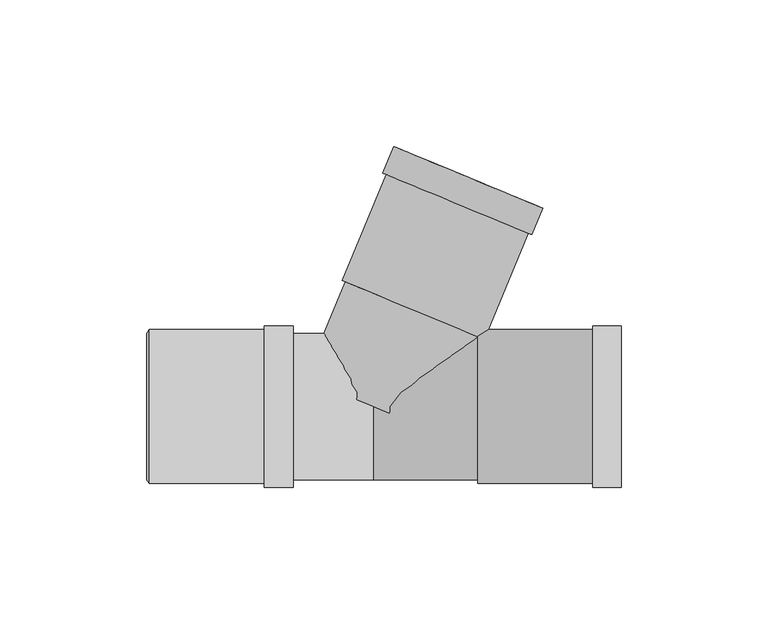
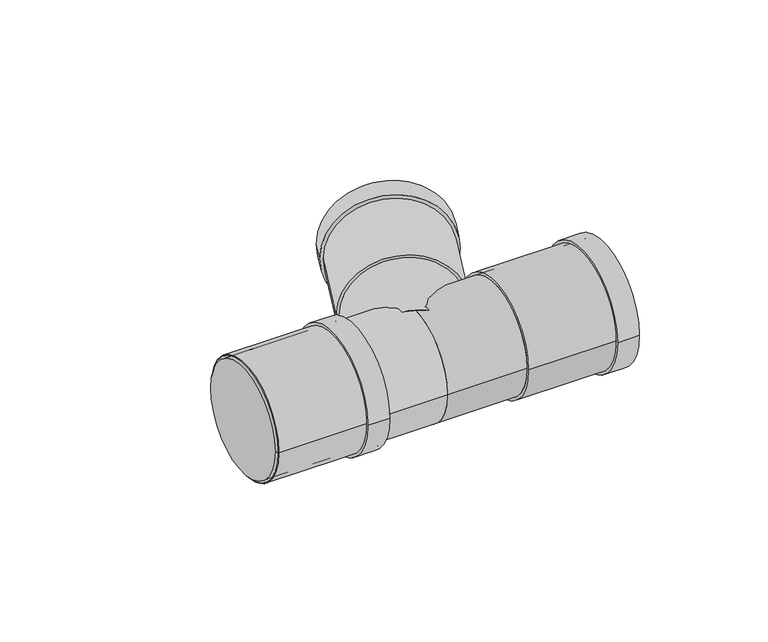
"""IFC4 building model written with IfcOpenShell, lengths in millimetres: pipe fitting geometry, Superdrain HTEA Branch : Superdrain HTEA Branch."""

import ifcopenshell
import ifcopenshell.guid

model = None  # the IFC model being written
_history = None  # IfcOwnerHistory: only IFC2X3 demands one
_inside = {}  # id of a spatial element -> (the spatial element, [elements in it])
_under = {}  # id of a project, library or spatial element -> (it, [spatial elements below it])
_declared = {}  # id of a project -> (the project, [libraries it declares])
_typed = {}  # id of a type object -> (the type object, [elements of that type])
_made_of = {}  # id of a material, layer set ... -> (it, [elements and type objects made of it])


def new_model(schema):
    """Start an empty IFC model of exactly this schema.

    Asked for "IFC4X3", IfcOpenShell would pick the latest addendum, in which some entities
    have other attributes; the version numbers below select the first issue.
    IFC2X3 requires an IfcOwnerHistory on every rooted entity: one is made here for all.
    """
    global model, _history
    if schema == "IFC4X3":
        model = ifcopenshell.file(schema_version=(4, 3, 0, 0))
    else:
        model = ifcopenshell.file(schema=schema)
    _inside.clear()
    _under.clear()
    _declared.clear()
    _typed.clear()
    _made_of.clear()
    _history = None
    if model.schema == "IFC2X3":
        org = make("IfcOrganization", Name="unknown")
        user = make(
            "IfcPersonAndOrganization",
            ThePerson=make("IfcPerson", FamilyName="unknown"),
            TheOrganization=org,
        )
        app = make(
            "IfcApplication",
            ApplicationDeveloper=org,
            Version="unknown",
            ApplicationFullName="unknown",
            ApplicationIdentifier="unknown",
        )
        _history = make(
            "IfcOwnerHistory",
            OwningUser=user,
            OwningApplication=app,
            ChangeAction="ADDED",
            CreationDate=0,
        )
    return model


def make(cls, **values):
    """One entity of the class cls with the attributes given. An attribute that is None is left unset."""
    return model.create_entity(
        cls, **{name: value for name, value in values.items() if value is not None}
    )


def rooted(cls, **values):
    """An entity with a GlobalId (a new one), such as an element, a storey or a relation."""
    return make(cls, GlobalId=ifcopenshell.guid.new(), OwnerHistory=_history, **values)


def si_unit(unit_type, name, prefix=None):
    """IfcSIUnit, for example si_unit("LENGTHUNIT", "METRE", prefix="MILLI")."""
    return make("IfcSIUnit", UnitType=unit_type, Prefix=prefix, Name=name)


def assignment(units):
    """IfcUnitAssignment: the units of a project."""
    return None if units is None else make("IfcUnitAssignment", Units=units)


def point(xyz):
    """IfcCartesianPoint."""
    return None if xyz is None else make("IfcCartesianPoint", Coordinates=xyz)


def direction(xyz):
    """IfcDirection."""
    return None if xyz is None else make("IfcDirection", DirectionRatios=xyz)


def frame(location, z_axis=None, x_axis=None):
    """IfcAxis2Placement3D, a coordinate frame: its origin and axes. An axis left out is left unset."""
    return make(
        "IfcAxis2Placement3D",
        Location=point(location),
        Axis=direction(z_axis),
        RefDirection=direction(x_axis),
    )


def frame_2d(location, x_axis=None):
    """IfcAxis2Placement2D, a coordinate frame in the plane: its origin and x axis."""
    return make(
        "IfcAxis2Placement2D", Location=point(location), RefDirection=direction(x_axis)
    )


def origin():
    """The frame at (0, 0, 0) with its axes left unset."""
    return frame((0.0, 0.0, 0.0))


def origin_2d():
    """The frame at (0, 0) in the plane with its x axis left unset."""
    return frame_2d((0.0, 0.0))


def place(relative_to, where):
    """IfcLocalPlacement: puts the frame where relative to a parent placement (None: the world)."""
    return make(
        "IfcLocalPlacement", PlacementRelTo=relative_to, RelativePlacement=where
    )


def context(
    kind, dimensions, precision=None, world=None, true_north=None, identifier=None
):
    """IfcGeometricRepresentationContext, for example the 3D "Model" context."""
    return make(
        "IfcGeometricRepresentationContext",
        ContextIdentifier=identifier,
        ContextType=kind,
        CoordinateSpaceDimension=dimensions,
        Precision=precision,
        WorldCoordinateSystem=world,
        TrueNorth=true_north,
    )


def project(units=None, contexts=None):
    """IfcProject with its units and contexts."""
    return rooted(
        "IfcProject",
        Name="project",
        RepresentationContexts=contexts,
        UnitsInContext=assignment(units),
    )


def spatial(cls, under=None, at=None, **own):
    """A site, building, storey or space (cls), placed at a placement, below another one or the project."""
    s = rooted(cls, ObjectPlacement=at, **own)
    if under is not None:
        _under.setdefault(under.id(), (under, []))[1].append(s)
    return s


def polyline(points):
    """IfcPolyline through the points."""
    return make("IfcPolyline", Points=[point(p) for p in points])


def circle_curve(where, radius):
    """IfcCircle in the frame where."""
    return make("IfcCircle", Position=where, Radius=radius)


def trimmed(basis, trim1, trim2, sense, master):
    """IfcTrimmedCurve: the piece of a basis curve between two trims."""
    return make(
        "IfcTrimmedCurve",
        BasisCurve=basis,
        Trim1=trim1,
        Trim2=trim2,
        SenseAgreement=sense,
        MasterRepresentation=master,
    )


def segment(curve, same_sense, transition):
    """IfcCompositeCurveSegment."""
    return make(
        "IfcCompositeCurveSegment",
        Transition=transition,
        SameSense=same_sense,
        ParentCurve=curve,
    )


def composite_curve(segments, self_intersect=None):
    """IfcCompositeCurve: segments joined end to end."""
    return make("IfcCompositeCurve", Segments=segments, SelfIntersect=self_intersect)


def outline(outer, holes=None, kind="AREA"):
    """IfcArbitraryClosedProfileDef: a profile drawn as a closed curve; with holes, ...WithVoids."""
    if holes is None:
        return make("IfcArbitraryClosedProfileDef", ProfileType=kind, OuterCurve=outer)
    return make(
        "IfcArbitraryProfileDefWithVoids",
        ProfileType=kind,
        OuterCurve=outer,
        InnerCurves=holes,
    )


def extrude(swept, where, along, depth):
    """IfcExtrudedAreaSolid: the profile swept, set in the frame where, extruded along a direction by depth."""
    return make(
        "IfcExtrudedAreaSolid",
        SweptArea=swept,
        Position=where,
        ExtrudedDirection=direction(along),
        Depth=depth,
    )


def shape(context_of_items, identifier, shape_type, items):
    """IfcShapeRepresentation: the items that make up one representation, for example the "Body"."""
    return make(
        "IfcShapeRepresentation",
        ContextOfItems=context_of_items,
        RepresentationIdentifier=identifier,
        RepresentationType=shape_type,
        Items=items,
    )


def source(mapping_origin, context_of_items, identifier, shape_type, items):
    """IfcRepresentationMap: a shape defined once, which mapped items show again and again."""
    return make(
        "IfcRepresentationMap",
        MappingOrigin=mapping_origin,
        MappedRepresentation=shape(context_of_items, identifier, shape_type, items),
    )


def transform(
    local_origin,
    x_axis=None,
    y_axis=None,
    z_axis=None,
    scale=None,
    scale2=None,
    scale3=None,
    uniform=True,
):
    """IfcCartesianTransformationOperator3D, or its non-uniform kind. x_axis, y_axis, z_axis: its Axis1, 2, 3."""
    if uniform:
        return make(
            "IfcCartesianTransformationOperator3D",
            Axis1=direction(x_axis),
            Axis2=direction(y_axis),
            LocalOrigin=point(local_origin),
            Scale=scale,
            Axis3=direction(z_axis),
        )
    return make(
        "IfcCartesianTransformationOperator3DnonUniform",
        Axis1=direction(x_axis),
        Axis2=direction(y_axis),
        LocalOrigin=point(local_origin),
        Scale=scale,
        Axis3=direction(z_axis),
        Scale2=scale2,
        Scale3=scale3,
    )


def mapped(mapping_source, mapping_target):
    """IfcMappedItem: shows the shape of a source again, moved by a transform."""
    return make(
        "IfcMappedItem", MappingSource=mapping_source, MappingTarget=mapping_target
    )


def made_of(thing, what):
    """Note that an element or type object is made of a material, layer set ...; save() writes the relation."""
    if what is not None:
        _made_of.setdefault(what.id(), (what, []))[1].append(thing)
    return thing


def element(
    cls,
    number,
    at=None,
    inside=None,
    cuts=None,
    type_object=None,
    material=None,
    context=None,
    identifier="Body",
    shape_type=None,
    held_by="IfcProductDefinitionShape",
    body=None,
    shapes=None,
    **own,
):
    """One element of the class cls, such as IfcWall. Its Tag is "e" and its number.

    at: its placement. inside: the storey or other place that contains it. cuts: it is an
    opening in that element (IfcRelVoidsElement). A single representation is given by context,
    identifier, shape_type and body (its items); several are given by shapes. held_by: the class
    of the entity that holds the representations. save() writes the other relations.
    """
    e = rooted(cls, Tag="e%d" % number, ObjectPlacement=at, **own)
    if body is not None:
        shapes = [shape(context, identifier, shape_type, body)]
    if shapes is not None:
        e.Representation = make(held_by, Representations=shapes)
    if inside is not None:
        _inside.setdefault(inside.id(), (inside, []))[1].append(e)
    if cuts is not None:
        rooted(
            "IfcRelVoidsElement", RelatingBuildingElement=cuts, RelatedOpeningElement=e
        )
    if type_object is not None:
        _typed.setdefault(type_object.id(), (type_object, []))[1].append(e)
    return made_of(e, material)


def aggregate(whole, parts):
    """IfcRelAggregates: a whole, such as a stair, and the parts it consists of."""
    return rooted("IfcRelAggregates", RelatingObject=whole, RelatedObjects=parts)


def save(model, path):
    """Write the relations noted so far, then the file.

    IfcRelAggregates (storeys below a building ...), IfcRelContainedInSpatialStructure (elements
    in a storey), IfcRelDefinesByType, IfcRelAssociatesMaterial and IfcRelDeclares: one each for
    every whole, place, type object, material and project.
    """
    for whole, parts in _under.values():
        aggregate(whole, parts)
    for where, things in _inside.values():
        rooted(
            "IfcRelContainedInSpatialStructure",
            RelatedElements=things,
            RelatingStructure=where,
        )
    for kind, things in _typed.values():
        rooted("IfcRelDefinesByType", RelatedObjects=things, RelatingType=kind)
    for what, things in _made_of.values():
        rooted("IfcRelAssociatesMaterial", RelatedObjects=things, RelatingMaterial=what)
    for by, libraries in _declared.values():
        rooted("IfcRelDeclares", RelatingContext=by, RelatedDefinitions=libraries)
    model.write(path)


def plane_surface(at):
    """IfcPlane: the flat surface through the origin of the frame at, square to its z axis."""
    return make("IfcPlane", Position=at)


def revolved_surface(curve, axis_point, axis_direction):
    """IfcSurfaceOfRevolution: the curve turned about the line through axis_point along axis_direction."""
    return make(
        "IfcSurfaceOfRevolution",
        SweptCurve=make("IfcArbitraryOpenProfileDef", ProfileType="CURVE", Curve=curve),
        AxisPosition=make("IfcAxis1Placement", Location=point(axis_point), Axis=direction(axis_direction)),
    )


def advanced_brep(points, edges, surfaces, faces):
    """IfcAdvancedBrep: a solid bounded by faces that lie on surfaces and meet in shared edges.

    An edge is (start, end): straight between two places in points (the first is 0);
    or (start, end, curve); or (start, end, curve, False) where it runs against its curve.
    A face is (place in surfaces, loops), or (place, loops, False) where it looks against
    its surface's normal. A loop lists edges by number (the first is 1), with a minus sign
    where the edge is run from its end to its start. The first loop is the outer one.
    """
    corners = [point(p) for p in points]
    vertices = [make("IfcVertexPoint", VertexGeometry=c) for c in corners]
    made = []
    for start, end, *more in edges:
        made.append(
            make(
                "IfcEdgeCurve",
                EdgeStart=vertices[start],
                EdgeEnd=vertices[end],
                EdgeGeometry=more[0] if more else make("IfcPolyline", Points=[corners[start], corners[end]]),
                SameSense=more[1] if len(more) > 1 else True,
            )
        )
    hull = []
    for where, loops, *sense in faces:
        bounds = []
        for j, loop in enumerate(loops):
            ring = [make("IfcOrientedEdge", EdgeElement=made[abs(k) - 1], Orientation=k > 0) for k in loop]
            bounds.append(
                make(
                    "IfcFaceOuterBound" if j == 0 else "IfcFaceBound",
                    Bound=make("IfcEdgeLoop", EdgeList=ring),
                    Orientation=True,
                )
            )
        hull.append(make("IfcAdvancedFace", Bounds=bounds, FaceSurface=surfaces[where], SameSense=sense[0] if sense else True))
    return make("IfcAdvancedBrep", Outer=make("IfcClosedShell", CfsFaces=hull))


def pipe_fitting_c48c9deb(model_context):
    return source(origin(), model_context, "Body", "SolidModel", [
        extrude(outline(composite_curve([segment(trimmed(circle_curve(origin_2d(), 26.25), [point((26.25, 0.0))], [point((-26.25, 0.0))], False, "CARTESIAN"), True, "CONTINUOUS"), segment(trimmed(circle_curve(origin_2d(), 26.25), [point((-26.25, 0.0))], [point((26.25, 0.0))], False, "CARTESIAN"), True, "CONTINUOUS")], self_intersect=False), holes=[composite_curve([segment(trimmed(circle_curve(origin_2d(), 25.0), [point((25.0, 0.0))], [point((-25.0, 0.0))], True, "CARTESIAN"), True, "CONTINUOUS"), segment(trimmed(circle_curve(origin_2d(), 25.0), [point((-25.0, 0.0))], [point((25.0, 0.0))], True, "CARTESIAN"), True, "CONTINUOUS")], self_intersect=False)]), frame((-76.3, 0.0, 0.0), z_axis=(1.0, 0.0, 0.0), x_axis=(0.0, 1.0, 0.0)), (0.0, 0.0, 1.0), 49.0),
        extrude(outline(composite_curve([segment(trimmed(circle_curve(origin_2d(), 27.5625), [point((27.5625, 0.0))], [point((-27.5625, 0.0))], False, "CARTESIAN"), True, "CONTINUOUS"), segment(trimmed(circle_curve(origin_2d(), 27.5625), [point((-27.5625, 0.0))], [point((27.5625, 0.0))], False, "CARTESIAN"), True, "CONTINUOUS")], self_intersect=False), holes=[composite_curve([segment(trimmed(circle_curve(origin_2d(), 25.0), [point((25.0, 0.0))], [point((-25.0, 0.0))], True, "CARTESIAN"), True, "CONTINUOUS"), segment(trimmed(circle_curve(origin_2d(), 25.0), [point((-25.0, 0.0))], [point((25.0, 0.0))], True, "CARTESIAN"), True, "CONTINUOUS")], self_intersect=False)]), frame((-37.1, 0.0, 0.0), z_axis=(1.0, 0.0, 0.0), x_axis=(0.0, 1.0, 0.0)), (0.0, 0.0, 1.0), 9.8),
        advanced_brep(
        [(-77.3, 25.0, 0.0), (-77.3, -25.0, 0.0), (-76.3, 26.25, 0.0), (-76.3, -26.25, 0.0)],
        [
            (0, 1, circle_curve(frame((-77.3, 0.0, 0.0), z_axis=(-1.0, 0.0, 0.0), x_axis=(0.0, 1.0000000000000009, 0.0)), 25.0)),
            (1, 0, circle_curve(frame((-77.3, 0.0, 0.0), z_axis=(-1.0, 0.0, 0.0), x_axis=(0.0, -1.0000000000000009, 0.0)), 25.0)),
            (2, 3, circle_curve(frame((-76.3, 0.0, 0.0), z_axis=(1.0, 0.0, 0.0), x_axis=(0.0, -1.0000000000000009, 0.0)), 26.25)),
            (3, 2, circle_curve(frame((-76.3, 0.0, 0.0), z_axis=(1.0, 0.0, 0.0), x_axis=(0.0, 1.0000000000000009, 0.0)), 26.25)),
            (3, 1),
            (0, 2),
        ],
        [
            plane_surface(frame((-77.3, 0.0, 0.0), z_axis=(-1.0, 0.0, 0.0), x_axis=(0.0, 0.0, -1.0))),
            plane_surface(frame((-76.3, 0.0, 0.0), z_axis=(1.0, 0.0, 0.0), x_axis=(0.0, 0.0, -1.0))),
            revolved_surface(polyline([(-77.3, 24.999999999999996, 0.0), (-76.3, 26.25, 0.0)]), (-97.3, 0.0, 0.0), (1.0000000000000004, 0.0, 0.0)),
            revolved_surface(polyline([(-77.3, -24.999999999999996, 0.0), (-76.3, -26.25, 0.0)]), (-97.3, 0.0, 0.0), (1.0000000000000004, 0.0, 0.0)),
        ],
        [
            (0, [[1, 2]]),
            (1, [[3, 4]]),
            (2, [[-4, 5, -1, 6]]),
            (3, [[-3, -6, -2, -5]]),
        ],
    ),
        extrude(outline(composite_curve([segment(trimmed(circle_curve(origin_2d(), 26.25), [point((-26.25, 0.0))], [point((26.25, 0.0))], False, "CARTESIAN"), True, "CONTINUOUS"), segment(trimmed(circle_curve(origin_2d(), 26.25), [point((26.25, 0.0))], [point((-26.25, 0.0))], False, "CARTESIAN"), True, "CONTINUOUS")], self_intersect=False), holes=[composite_curve([segment(trimmed(circle_curve(origin_2d(), 25.0), [point((25.0, 0.0))], [point((-25.0, 0.0))], True, "CARTESIAN"), True, "CONTINUOUS"), segment(trimmed(circle_curve(origin_2d(), 25.0), [point((-25.0, 0.0))], [point((25.0, 0.0))], True, "CARTESIAN"), True, "CONTINUOUS")], self_intersect=False)]), frame((35.7, 0.0, 0.0), z_axis=(1.0, 0.0, 0.0), x_axis=(0.0, 1.0, 0.0)), (0.0, 0.0, 1.0), 49.0),
        extrude(outline(composite_curve([segment(trimmed(circle_curve(origin_2d(), 27.5625), [point((27.5625, 0.0))], [point((-27.5625, 0.0))], False, "CARTESIAN"), True, "CONTINUOUS"), segment(trimmed(circle_curve(origin_2d(), 27.5625), [point((-27.5625, 0.0))], [point((27.5625, 0.0))], False, "CARTESIAN"), True, "CONTINUOUS")], self_intersect=False), holes=[composite_curve([segment(trimmed(circle_curve(origin_2d(), 25.0), [point((25.0, 0.0))], [point((-25.0, 0.0))], True, "CARTESIAN"), True, "CONTINUOUS"), segment(trimmed(circle_curve(origin_2d(), 25.0), [point((-25.0, 0.0))], [point((25.0, 0.0))], True, "CARTESIAN"), True, "CONTINUOUS")], self_intersect=False)]), frame((74.9, 0.0, 0.0), z_axis=(1.0, 0.0, 0.0), x_axis=(0.0, 1.0, 0.0)), (0.0, 0.0, 1.0), 9.8),
        extrude(outline(composite_curve([segment(trimmed(circle_curve(origin_2d(), 25.0), [point((0.0, 25.0))], [point((0.0, -25.0))], False, "CARTESIAN"), True, "CONTINUOUS"), segment(trimmed(circle_curve(origin_2d(), 25.0), [point((0.0, -25.0))], [point((0.0, 25.0))], False, "CARTESIAN"), True, "CONTINUOUS")], self_intersect=False)), frame((0.0, 0.0, 0.0), z_axis=(0.3826834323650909, 0.9238795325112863, 0.0), x_axis=(0.0, 0.0, 1.0)), (0.0, 0.0, 1.0), 35.7),
        extrude(outline(composite_curve([segment(trimmed(circle_curve(origin_2d(), 25.0), [point((25.0, 0.0))], [point((-25.0, 0.0))], False, "CARTESIAN"), True, "CONTINUOUS"), segment(trimmed(circle_curve(origin_2d(), 25.0), [point((-25.0, 0.0))], [point((25.0, 0.0))], False, "CARTESIAN"), True, "CONTINUOUS")], self_intersect=False)), frame((-76.3, 0.0, 0.0), z_axis=(1.0, 0.0, 0.0), x_axis=(0.0, 1.0, 0.0)), (0.0, 0.0, 1.0), 76.3),
        extrude(outline(composite_curve([segment(trimmed(circle_curve(origin_2d(), 25.0), [point((-25.0, 0.0))], [point((25.0, 0.0))], False, "CARTESIAN"), True, "CONTINUOUS"), segment(trimmed(circle_curve(origin_2d(), 25.0), [point((25.0, 0.0))], [point((-25.0, 0.0))], False, "CARTESIAN"), True, "CONTINUOUS")], self_intersect=False)), frame((0.0, 0.0, 0.0), z_axis=(1.0, 0.0, 0.0), x_axis=(0.0, 1.0, 0.0)), (0.0, 0.0, 1.0), 35.7),
        extrude(outline(composite_curve([segment(trimmed(circle_curve(origin_2d(), 27.5625), [point((0.0, 27.5625))], [point((0.0, -27.5625))], False, "CARTESIAN"), True, "CONTINUOUS"), segment(trimmed(circle_curve(origin_2d(), 27.5625), [point((0.0, -27.5625))], [point((0.0, 27.5625))], False, "CARTESIAN"), True, "CONTINUOUS")], self_intersect=False), holes=[composite_curve([segment(trimmed(circle_curve(origin_2d(), 25.0), [point((0.0, 25.0))], [point((0.0, -25.0))], True, "CARTESIAN"), True, "CONTINUOUS"), segment(trimmed(circle_curve(origin_2d(), 25.0), [point((0.0, -25.0))], [point((0.0, 25.0))], True, "CARTESIAN"), True, "CONTINUOUS")], self_intersect=False)]), frame((28.6629891, 69.198577, 0.0), z_axis=(0.38268343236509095, 0.9238795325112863, 0.0), x_axis=(0.0, 0.0, 1.0)), (0.0, 0.0, 1.0), 9.8),
        extrude(outline(composite_curve([segment(trimmed(circle_curve(origin_2d(), 26.25), [point((0.0, 26.2500001))], [point((0.0, -26.25))], False, "CARTESIAN"), True, "CONTINUOUS"), segment(trimmed(circle_curve(origin_2d(), 26.25), [point((0.0, -26.25))], [point((0.0, 26.2500001))], False, "CARTESIAN"), True, "CONTINUOUS")], self_intersect=False), holes=[composite_curve([segment(trimmed(circle_curve(origin_2d(), 25.0), [point((0.0, 25.0))], [point((0.0, -25.0))], True, "CARTESIAN"), True, "CONTINUOUS"), segment(trimmed(circle_curve(origin_2d(), 25.0), [point((0.0, -25.0))], [point((0.0, 25.0))], True, "CARTESIAN"), True, "CONTINUOUS")], self_intersect=False)]), frame((13.6617985, 32.9824993, 0.0), z_axis=(0.38268343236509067, 0.9238795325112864, 0.0), x_axis=(0.0, 0.0, 1.0)), (0.0, 0.0, 1.0), 49.0),
    ])


if __name__ == "__main__":
    model = new_model("IFC4")
    model_context = context("Model", 3, world=origin())
    ifc_project = project(units=[si_unit("LENGTHUNIT", "METRE", prefix="MILLI")], contexts=[model_context])
    site = spatial("IfcSite", under=ifc_project)
    building = spatial("IfcBuilding", under=site)
    placement = place(None, origin())
    pipe_fitting_shape = pipe_fitting_c48c9deb(model_context)
    element("IfcPipeFitting", 1, ObjectType="Superdrain HTEA Branch : Superdrain HTEA Branch", at=placement, inside=building, context=model_context, shape_type="MappedRepresentation", body=[
        mapped(pipe_fitting_shape, transform((0.0, 0.0, 0.0), x_axis=(1.0, 0.0, 0.0), y_axis=(0.0, 1.0, 0.0), z_axis=(0.0, 0.0, 1.0))),
    ])
    save(model, "model.ifc")
